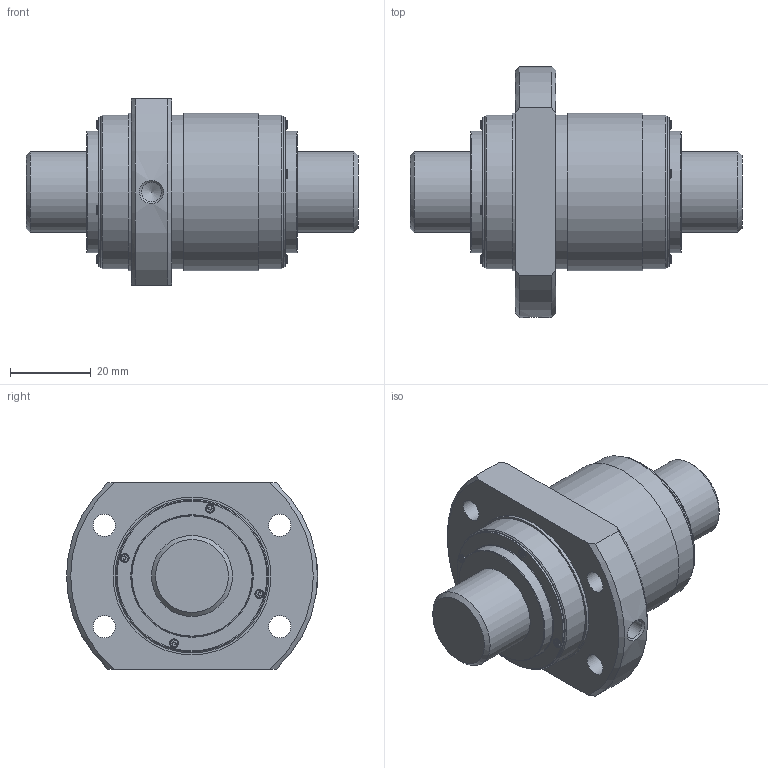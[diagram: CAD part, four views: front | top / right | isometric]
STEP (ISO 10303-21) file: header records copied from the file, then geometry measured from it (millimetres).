
FILE_DESCRIPTION(/* description */ ('STEP AP203'),/* implementation_level */ '2;1');
FILE_NAME(/* name */ 'BLK2020-3.6ZZ+82LC7T_000',/* time_stamp */ '2025-06-11T06:28:46+02:00',/* author */ ('License CC BY-ND 4.0'),/* organization */ ('CADENAS'),/* preprocessor_version */ 'ST-DEVELOPER v19.3',/* originating_system */ 'PARTsolutions',/* authorisation */ ' ');
FILE_SCHEMA (('CONFIG_CONTROL_DESIGN'));
Length unit declared in the file: millimetre
Products named in the file (3): BLK2020-3.6ZZ+82LC7T_000; BLK2020-3.60ZZ0 Shaft; BLK2020-3.6ZZ Nut
Assembly tree (2 placements, depth 2):
  BLK2020-3.6ZZ+82LC7T_000
    BLK2020-3.60ZZ0 Shaft
    BLK2020-3.6ZZ Nut
Bounding box: 82 x 62 x 46 mm (x, y, z)
Volume: 79898.8 mm3; surface area: 20876.7 mm2
Topology: 2 solids, 2 shells, 207 faces, 517 edges, 339 vertices
Faces by surface type: plane 127, cylinder 58, torus 12, cone 10
Full cylindrical faces by diameter (mm): 2.24 x8, 4.917 x1, 5.5 x4, 20 x2, 30 x2, 37 x2, 38 x3, 39 x2
Entity records: 6038 total; most frequent: CARTESIAN_POINT 1055, DIRECTION 1020, ORIENTED_EDGE 946, EDGE_CURVE 473, AXIS2_PLACEMENT_3D 346, VERTEX_POINT 338, LINE 328, VECTOR 328
